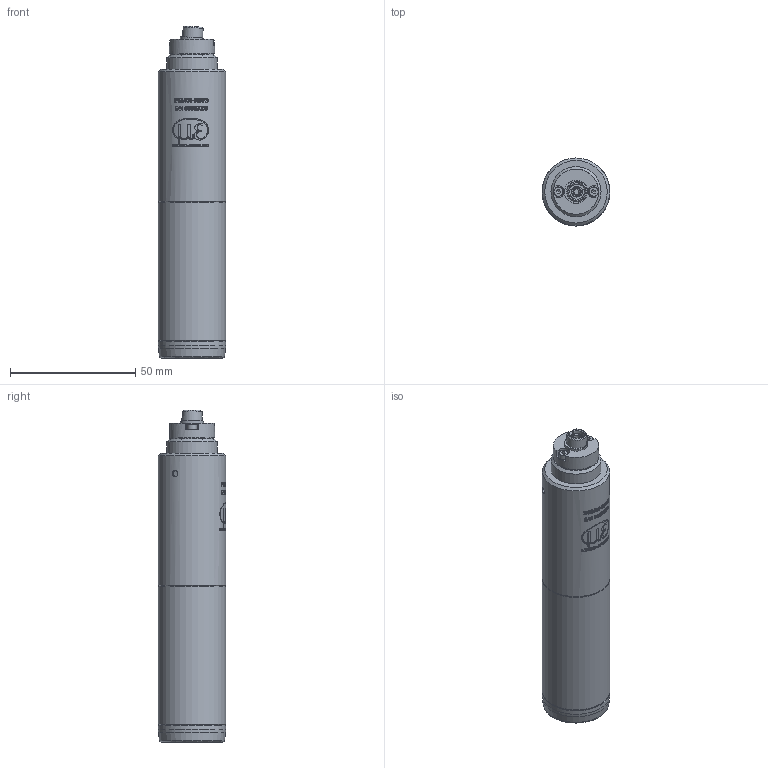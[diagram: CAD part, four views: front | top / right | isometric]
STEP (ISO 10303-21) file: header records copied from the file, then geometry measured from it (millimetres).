
FILE_DESCRIPTION (( 'STEP AP203' ), '1' );
FILE_NAME ('2602067.001-AA IFS2406-3_VAC(001)-step.STEP', '2021-04-12T15:15:50', ( '' ), ( '' ), 'SwSTEP 2.0', 'SolidWorks 2020', '' );
FILE_SCHEMA (( 'CONFIG_CONTROL_DESIGN' ));
Length unit declared in the file: millimetre
Products named in the file (1): 2602067.001-AA  IFS2406-3_VAC(001)-step
Bounding box: 27 x 27 x 132.4 mm (x, y, z)
Volume: 68880.8 mm3; surface area: 11946.8 mm2
Topology: 1 solids, 1 shells, 666 faces, 1757 edges, 1162 vertices
Faces by surface type: bspline 335, plane 225, cylinder 91, cone 13, torus 2
Full cylindrical faces by diameter (mm): 0.8 x6, 2.5 x3, 3.8 x2, 4.25 x1, 6.1 x1, 8 x1, 9.2 x1, 17.5 x1, 20 x1, 22 x1, 26.95 x2, 27 x1
Entity records: 57706 total; most frequent: CARTESIAN_POINT 43624, ORIENTED_EDGE 3384, DIRECTION 1885, EDGE_CURVE 1692, VERTEX_POINT 1139, EDGE_LOOP 777, LINE 771, VECTOR 771
